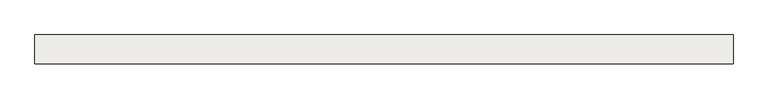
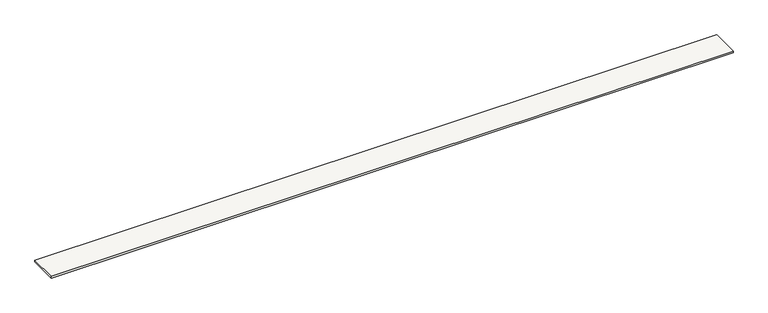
"""IFC4 building model written with IfcOpenShell, lengths in millimetres: slab geometry, Sol-02 - Tablette bois 2cm."""

from ifc_helpers import new_model, si_unit, origin, origin_with_axes, place, context, project, spatial, polyline, outline, extrude, source, transform, mapped, element, save


def slab_e555282d(model_context):
    return source(origin(), model_context, "Body", "SweptSolid", [
        extrude(outline(polyline([(24403.9999799, 11349.9999995), (24403.9999799, 10999.9999995), (16003.9999799, 10999.9999995), (16003.9999799, 11349.9999995), (24403.9999799, 11349.9999995)])), origin_with_axes(), (0.0, 0.0, 1.0), 20.0),
    ])


if __name__ == "__main__":
    model = new_model("IFC4")
    model_context = context("Model", 3, world=origin())
    ifc_project = project(units=[si_unit("LENGTHUNIT", "METRE", prefix="MILLI")], contexts=[model_context])
    site = spatial("IfcSite", under=ifc_project)
    building = spatial("IfcBuilding", under=site)
    placement = place(None, origin())
    slab_shape = slab_e555282d(model_context)
    element("IfcSlab", 1, ObjectType="Sol-02 - Tablette bois 2cm", at=placement, inside=building, context=model_context, shape_type="MappedRepresentation", body=[
        mapped(slab_shape, transform((0.0, 0.0, 0.0), x_axis=(1.0, 0.0, 0.0), y_axis=(0.0, 1.0, 0.0), z_axis=(0.0, 0.0, 1.0))),
    ])
    save(model, "model.ifc")
